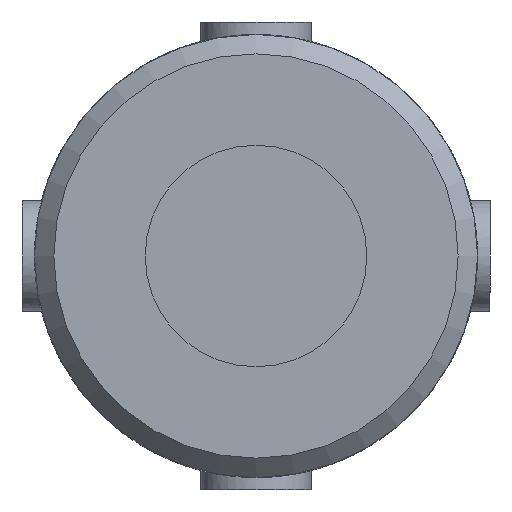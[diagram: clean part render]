
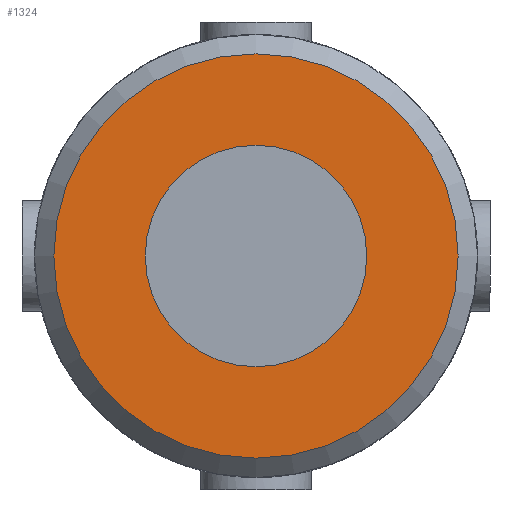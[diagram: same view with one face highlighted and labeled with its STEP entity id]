
A CAD part, front view. The second image highlights one B-rep face of the part: STEP entity #1324.
In plain terms, the highlighted planar face has unit normal (0, -1, 0).
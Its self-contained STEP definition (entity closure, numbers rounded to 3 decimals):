
#196=PLANE('',#1455);
#308=FACE_BOUND('',#485,.T.);
#374=FACE_OUTER_BOUND('',#484,.T.);
#484=EDGE_LOOP('',(#1155));
#485=EDGE_LOOP('',(#1156));
#552=CIRCLE('',#1450,4.);
#554=CIRCLE('',#1453,7.3);
#664=VERTEX_POINT('',#2587);
#666=VERTEX_POINT('',#2592);
#831=EDGE_CURVE('',#664,#664,#552,.T.);
#833=EDGE_CURVE('',#666,#666,#554,.T.);
#1155=ORIENTED_EDGE('',*,*,#833,.F.);
#1156=ORIENTED_EDGE('',*,*,#831,.T.);
#1324=ADVANCED_FACE('',(#374,#308),#196,.F.);
#1450=AXIS2_PLACEMENT_3D('',#2588,#1736,#1737);
#1453=AXIS2_PLACEMENT_3D('',#2593,#1742,#1743);
#1455=AXIS2_PLACEMENT_3D('',#2761,#1750,#1751);
#1736=DIRECTION('center_axis',(0.,1.,0.));
#1737=DIRECTION('ref_axis',(-1.,0.,0.));
#1742=DIRECTION('center_axis',(0.,1.,0.));
#1743=DIRECTION('ref_axis',(1.,0.,0.));
#1750=DIRECTION('center_axis',(0.,1.,0.));
#1751=DIRECTION('ref_axis',(0.,0.,1.));
#2587=CARTESIAN_POINT('',(4.,-24.,0.));
#2588=CARTESIAN_POINT('Origin',(0.,-24.,0.));
#2592=CARTESIAN_POINT('',(-7.3,-24.,0.));
#2593=CARTESIAN_POINT('Origin',(0.,-24.,0.));
#2761=CARTESIAN_POINT('Origin',(0.,-24.,0.));
